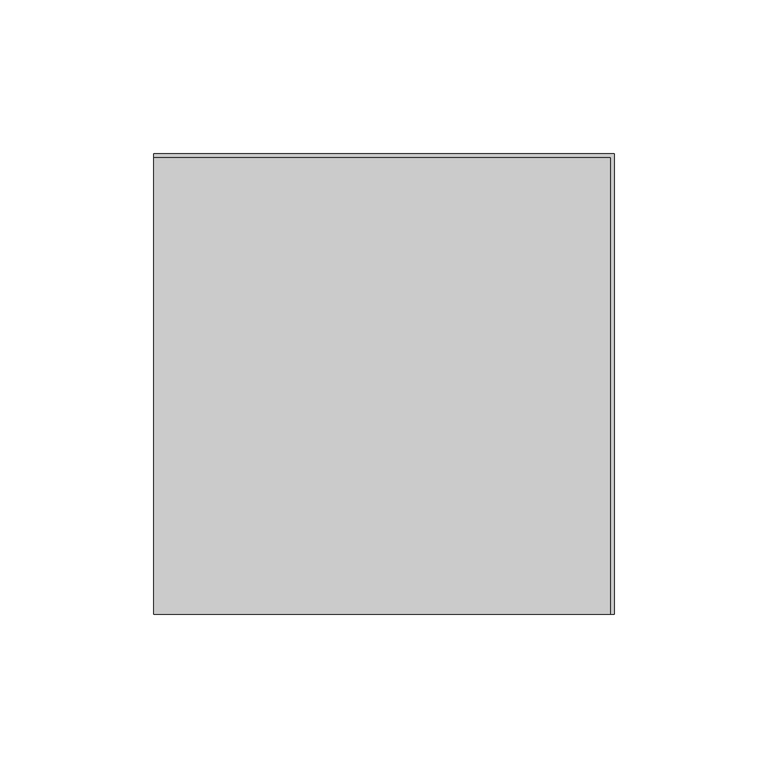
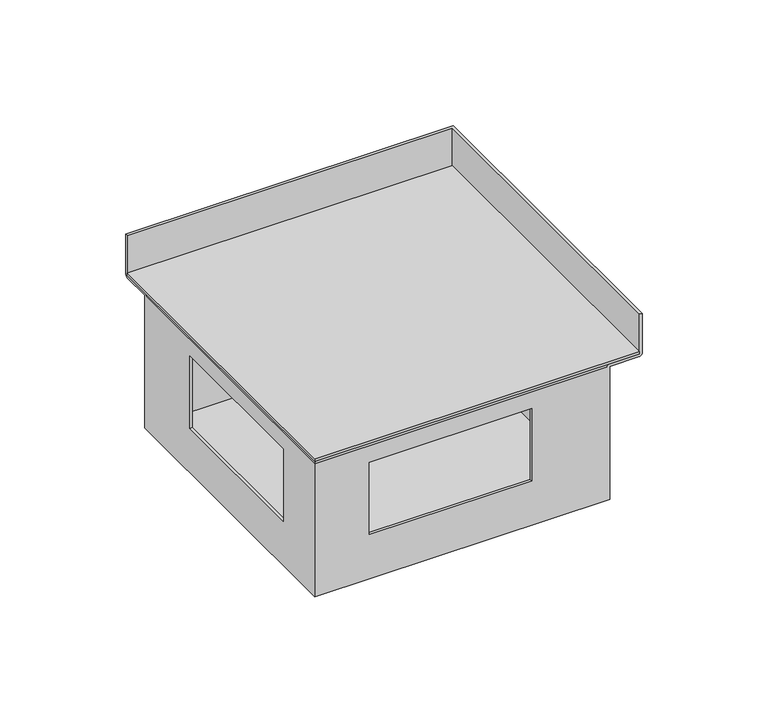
"""IFC4 building model written with IfcOpenShell, lengths in millimetres: proxy geometry, TECHNO_Угловой элемент_KVU : 150_085_90°."""

import ifcopenshell
import ifcopenshell.guid

model = None  # the IFC model being written
_history = None  # IfcOwnerHistory: only IFC2X3 demands one
_inside = {}  # id of a spatial element -> (the spatial element, [elements in it])
_under = {}  # id of a project, library or spatial element -> (it, [spatial elements below it])
_declared = {}  # id of a project -> (the project, [libraries it declares])
_typed = {}  # id of a type object -> (the type object, [elements of that type])
_made_of = {}  # id of a material, layer set ... -> (it, [elements and type objects made of it])


def new_model(schema):
    """Start an empty IFC model of exactly this schema.

    Asked for "IFC4X3", IfcOpenShell would pick the latest addendum, in which some entities
    have other attributes; the version numbers below select the first issue.
    IFC2X3 requires an IfcOwnerHistory on every rooted entity: one is made here for all.
    """
    global model, _history
    if schema == "IFC4X3":
        model = ifcopenshell.file(schema_version=(4, 3, 0, 0))
    else:
        model = ifcopenshell.file(schema=schema)
    _inside.clear()
    _under.clear()
    _declared.clear()
    _typed.clear()
    _made_of.clear()
    _history = None
    if model.schema == "IFC2X3":
        org = make("IfcOrganization", Name="unknown")
        user = make(
            "IfcPersonAndOrganization",
            ThePerson=make("IfcPerson", FamilyName="unknown"),
            TheOrganization=org,
        )
        app = make(
            "IfcApplication",
            ApplicationDeveloper=org,
            Version="unknown",
            ApplicationFullName="unknown",
            ApplicationIdentifier="unknown",
        )
        _history = make(
            "IfcOwnerHistory",
            OwningUser=user,
            OwningApplication=app,
            ChangeAction="ADDED",
            CreationDate=0,
        )
    return model


def make(cls, **values):
    """One entity of the class cls with the attributes given. An attribute that is None is left unset."""
    return model.create_entity(
        cls, **{name: value for name, value in values.items() if value is not None}
    )


def rooted(cls, **values):
    """An entity with a GlobalId (a new one), such as an element, a storey or a relation."""
    return make(cls, GlobalId=ifcopenshell.guid.new(), OwnerHistory=_history, **values)


def si_unit(unit_type, name, prefix=None):
    """IfcSIUnit, for example si_unit("LENGTHUNIT", "METRE", prefix="MILLI")."""
    return make("IfcSIUnit", UnitType=unit_type, Prefix=prefix, Name=name)


def assignment(units):
    """IfcUnitAssignment: the units of a project."""
    return None if units is None else make("IfcUnitAssignment", Units=units)


def point(xyz):
    """IfcCartesianPoint."""
    return None if xyz is None else make("IfcCartesianPoint", Coordinates=xyz)


def direction(xyz):
    """IfcDirection."""
    return None if xyz is None else make("IfcDirection", DirectionRatios=xyz)


def frame(location, z_axis=None, x_axis=None):
    """IfcAxis2Placement3D, a coordinate frame: its origin and axes. An axis left out is left unset."""
    return make(
        "IfcAxis2Placement3D",
        Location=point(location),
        Axis=direction(z_axis),
        RefDirection=direction(x_axis),
    )


def origin():
    """The frame at (0, 0, 0) with its axes left unset."""
    return frame((0.0, 0.0, 0.0))


def place(relative_to, where):
    """IfcLocalPlacement: puts the frame where relative to a parent placement (None: the world)."""
    return make(
        "IfcLocalPlacement", PlacementRelTo=relative_to, RelativePlacement=where
    )


def context(
    kind, dimensions, precision=None, world=None, true_north=None, identifier=None
):
    """IfcGeometricRepresentationContext, for example the 3D "Model" context."""
    return make(
        "IfcGeometricRepresentationContext",
        ContextIdentifier=identifier,
        ContextType=kind,
        CoordinateSpaceDimension=dimensions,
        Precision=precision,
        WorldCoordinateSystem=world,
        TrueNorth=true_north,
    )


def project(units=None, contexts=None):
    """IfcProject with its units and contexts."""
    return rooted(
        "IfcProject",
        Name="project",
        RepresentationContexts=contexts,
        UnitsInContext=assignment(units),
    )


def spatial(cls, under=None, at=None, **own):
    """A site, building, storey or space (cls), placed at a placement, below another one or the project."""
    s = rooted(cls, ObjectPlacement=at, **own)
    if under is not None:
        _under.setdefault(under.id(), (under, []))[1].append(s)
    return s


def polyline(points):
    """IfcPolyline through the points."""
    return make("IfcPolyline", Points=[point(p) for p in points])


def circle_curve(where, radius):
    """IfcCircle in the frame where."""
    return make("IfcCircle", Position=where, Radius=radius)


def ellipse_curve(where, semi_axis1, semi_axis2):
    """IfcEllipse in the frame where."""
    return make(
        "IfcEllipse", Position=where, SemiAxis1=semi_axis1, SemiAxis2=semi_axis2
    )


def outline(outer, holes=None, kind="AREA"):
    """IfcArbitraryClosedProfileDef: a profile drawn as a closed curve; with holes, ...WithVoids."""
    if holes is None:
        return make("IfcArbitraryClosedProfileDef", ProfileType=kind, OuterCurve=outer)
    return make(
        "IfcArbitraryProfileDefWithVoids",
        ProfileType=kind,
        OuterCurve=outer,
        InnerCurves=holes,
    )


def extrude(swept, where, along, depth):
    """IfcExtrudedAreaSolid: the profile swept, set in the frame where, extruded along a direction by depth."""
    return make(
        "IfcExtrudedAreaSolid",
        SweptArea=swept,
        Position=where,
        ExtrudedDirection=direction(along),
        Depth=depth,
    )


def shape(context_of_items, identifier, shape_type, items):
    """IfcShapeRepresentation: the items that make up one representation, for example the "Body"."""
    return make(
        "IfcShapeRepresentation",
        ContextOfItems=context_of_items,
        RepresentationIdentifier=identifier,
        RepresentationType=shape_type,
        Items=items,
    )


def source(mapping_origin, context_of_items, identifier, shape_type, items):
    """IfcRepresentationMap: a shape defined once, which mapped items show again and again."""
    return make(
        "IfcRepresentationMap",
        MappingOrigin=mapping_origin,
        MappedRepresentation=shape(context_of_items, identifier, shape_type, items),
    )


def transform(
    local_origin,
    x_axis=None,
    y_axis=None,
    z_axis=None,
    scale=None,
    scale2=None,
    scale3=None,
    uniform=True,
):
    """IfcCartesianTransformationOperator3D, or its non-uniform kind. x_axis, y_axis, z_axis: its Axis1, 2, 3."""
    if uniform:
        return make(
            "IfcCartesianTransformationOperator3D",
            Axis1=direction(x_axis),
            Axis2=direction(y_axis),
            LocalOrigin=point(local_origin),
            Scale=scale,
            Axis3=direction(z_axis),
        )
    return make(
        "IfcCartesianTransformationOperator3DnonUniform",
        Axis1=direction(x_axis),
        Axis2=direction(y_axis),
        LocalOrigin=point(local_origin),
        Scale=scale,
        Axis3=direction(z_axis),
        Scale2=scale2,
        Scale3=scale3,
    )


def mapped(mapping_source, mapping_target):
    """IfcMappedItem: shows the shape of a source again, moved by a transform."""
    return make(
        "IfcMappedItem", MappingSource=mapping_source, MappingTarget=mapping_target
    )


def made_of(thing, what):
    """Note that an element or type object is made of a material, layer set ...; save() writes the relation."""
    if what is not None:
        _made_of.setdefault(what.id(), (what, []))[1].append(thing)
    return thing


def element(
    cls,
    number,
    at=None,
    inside=None,
    cuts=None,
    type_object=None,
    material=None,
    context=None,
    identifier="Body",
    shape_type=None,
    held_by="IfcProductDefinitionShape",
    body=None,
    shapes=None,
    **own,
):
    """One element of the class cls, such as IfcWall. Its Tag is "e" and its number.

    at: its placement. inside: the storey or other place that contains it. cuts: it is an
    opening in that element (IfcRelVoidsElement). A single representation is given by context,
    identifier, shape_type and body (its items); several are given by shapes. held_by: the class
    of the entity that holds the representations. save() writes the other relations.
    """
    e = rooted(cls, Tag="e%d" % number, ObjectPlacement=at, **own)
    if body is not None:
        shapes = [shape(context, identifier, shape_type, body)]
    if shapes is not None:
        e.Representation = make(held_by, Representations=shapes)
    if inside is not None:
        _inside.setdefault(inside.id(), (inside, []))[1].append(e)
    if cuts is not None:
        rooted(
            "IfcRelVoidsElement", RelatingBuildingElement=cuts, RelatedOpeningElement=e
        )
    if type_object is not None:
        _typed.setdefault(type_object.id(), (type_object, []))[1].append(e)
    return made_of(e, material)


def aggregate(whole, parts):
    """IfcRelAggregates: a whole, such as a stair, and the parts it consists of."""
    return rooted("IfcRelAggregates", RelatingObject=whole, RelatedObjects=parts)


def save(model, path):
    """Write the relations noted so far, then the file.

    IfcRelAggregates (storeys below a building ...), IfcRelContainedInSpatialStructure (elements
    in a storey), IfcRelDefinesByType, IfcRelAssociatesMaterial and IfcRelDeclares: one each for
    every whole, place, type object, material and project.
    """
    for whole, parts in _under.values():
        aggregate(whole, parts)
    for where, things in _inside.values():
        rooted(
            "IfcRelContainedInSpatialStructure",
            RelatedElements=things,
            RelatingStructure=where,
        )
    for kind, things in _typed.values():
        rooted("IfcRelDefinesByType", RelatedObjects=things, RelatingType=kind)
    for what, things in _made_of.values():
        rooted("IfcRelAssociatesMaterial", RelatedObjects=things, RelatingMaterial=what)
    for by, libraries in _declared.values():
        rooted("IfcRelDeclares", RelatingContext=by, RelatedDefinitions=libraries)
    model.write(path)


def plane_surface(at):
    """IfcPlane: the flat surface through the origin of the frame at, square to its z axis."""
    return make("IfcPlane", Position=at)


def cylinder_surface(at, radius):
    """IfcCylindricalSurface: all points at the distance radius from the z axis of the frame at."""
    return make("IfcCylindricalSurface", Position=at, Radius=radius)


def advanced_brep(points, edges, surfaces, faces):
    """IfcAdvancedBrep: a solid bounded by faces that lie on surfaces and meet in shared edges.

    An edge is (start, end): straight between two places in points (the first is 0);
    or (start, end, curve); or (start, end, curve, False) where it runs against its curve.
    A face is (place in surfaces, loops), or (place, loops, False) where it looks against
    its surface's normal. A loop lists edges by number (the first is 1), with a minus sign
    where the edge is run from its end to its start. The first loop is the outer one.
    """
    corners = [point(p) for p in points]
    vertices = [make("IfcVertexPoint", VertexGeometry=c) for c in corners]
    made = []
    for start, end, *more in edges:
        made.append(
            make(
                "IfcEdgeCurve",
                EdgeStart=vertices[start],
                EdgeEnd=vertices[end],
                EdgeGeometry=more[0] if more else make("IfcPolyline", Points=[corners[start], corners[end]]),
                SameSense=more[1] if len(more) > 1 else True,
            )
        )
    hull = []
    for where, loops, *sense in faces:
        bounds = []
        for j, loop in enumerate(loops):
            ring = [make("IfcOrientedEdge", EdgeElement=made[abs(k) - 1], Orientation=k > 0) for k in loop]
            bounds.append(
                make(
                    "IfcFaceOuterBound" if j == 0 else "IfcFaceBound",
                    Bound=make("IfcEdgeLoop", EdgeList=ring),
                    Orientation=True,
                )
            )
        hull.append(make("IfcAdvancedFace", Bounds=bounds, FaceSurface=surfaces[where], SameSense=sense[0] if sense else True))
    return make("IfcAdvancedBrep", Outer=make("IfcClosedShell", CfsFaces=hull))


def mechanical_equipment_80ec096f(model_context):
    return source(origin(), model_context, "Body", "SolidModel", [
        extrude(outline(polyline([(0.0, 73.8), (148.8, 73.8), (148.8, -75.0), (0.0, -75.0), (0.0, 73.8)])), frame((0.0, 0.0, -19.3), z_axis=(0.0, 0.0, 1.0), x_axis=(1.0, 0.0, 0.0)), (0.0, 0.0, 1.0), 1.2),
        advanced_brep(
        [(1.2, 59.0, -83.8), (1.2, -73.8, -83.8), (134.0, -73.8, -83.8), (134.0, 59.0, -83.8), (0.0, 60.2, -85.0), (135.2, 60.2, -85.0), (135.2, -75.0, -85.0), (0.0, -75.0, -85.0), (0.0, 60.2, -20.5), (0.0, -75.0, -20.5), (0.0, 59.0, -20.5), (0.0, 60.2, -19.3), (0.0, 73.8, -19.3), (0.0, 73.8, 0.0), (0.0, 75.0, 0.0), (0.0, 75.0, -19.3), (0.0, 73.8, -20.5), (0.0, -50.0, -28.5), (0.0, -50.0, -63.5), (0.0, 24.4, -63.5), (0.0, 24.4, -28.5), (135.2, -75.0, -20.5), (148.8, -75.0, -20.5), (150.0, -75.0, -19.3), (150.0, -75.0, 0.0), (148.8, -75.0, 0.0), (148.8, -75.0, -19.3), (135.2, -75.0, -19.3), (134.0, -75.0, -20.5), (25.0, -75.0, -63.5), (25.0, -75.0, -28.5), (99.4, -75.0, -28.5), (99.4, -75.0, -63.5), (135.2, 60.2, -20.5), (1.2, 60.2, -19.3), (1.2, -73.8, -19.3), (135.2, -73.8, -19.3), (148.8, 73.8, -19.3), (135.2, -59.0, -19.3), (16.0, -59.0, -19.3), (16.0, 60.2, -19.3), (135.2, 60.2, -19.3), (16.0, -59.0, -20.5), (16.0, 59.0, -20.5), (134.0, -59.0, -20.5), (134.0, -73.8, -20.5), (1.2, -73.8, -20.5), (1.2, 59.0, -20.5), (1.2, -50.0, -63.5), (1.2, -50.0, -28.5), (1.2, 24.4, -28.5), (1.2, 24.4, -63.5), (25.0, -73.8, -28.5), (25.0, -73.8, -63.5), (99.4, -73.8, -63.5), (99.4, -73.8, -28.5), (150.0, 75.0, -19.3), (150.0, 75.0, 0.0), (148.8, 73.8, 0.0), (148.8, 73.8, -20.5), (134.0, 59.0, -20.5)],
        [
            (0, 1),
            (1, 2),
            (2, 3),
            (3, 0),
            (4, 5),
            (5, 6),
            (6, 7),
            (7, 4),
            (8, 4),
            (7, 9),
            (9, 10),
            (10, 11, circle_curve(frame((0.0, 60.2, -20.5), z_axis=(-1.0, 0.0, 0.0), x_axis=(0.0, -1.0, 0.0)), 1.2)),
            (11, 12),
            (12, 13),
            (13, 14),
            (14, 15),
            (15, 16, circle_curve(frame((0.0, 73.8, -19.3), z_axis=(-1.0, 0.0, 0.0), x_axis=(0.0, -1.0, 0.0)), 1.2)),
            (16, 8),
            (17, 18),
            (18, 19),
            (19, 20),
            (20, 17),
            (6, 21),
            (21, 22),
            (22, 23, circle_curve(frame((148.8, -75.0, -19.3), z_axis=(0.0, -1.0, 0.0), x_axis=(-1.0, 0.0, 0.0)), 1.2)),
            (23, 24),
            (24, 25),
            (25, 26),
            (26, 27),
            (27, 28, circle_curve(frame((135.2, -75.0, -20.5), z_axis=(0.0, -1.0, 0.0), x_axis=(-1.0, 0.0, 0.0)), 1.2)),
            (28, 9),
            (29, 30),
            (30, 31),
            (31, 32),
            (32, 29),
            (8, 33),
            (33, 5),
            (33, 21),
            (34, 35),
            (35, 36),
            (36, 27),
            (26, 37),
            (37, 12),
            (11, 34),
            (38, 39),
            (39, 40),
            (40, 41),
            (41, 38),
            (39, 42),
            (42, 43),
            (43, 40, circle_curve(frame((16.0, 60.2, -20.5), z_axis=(-1.0, 0.0, 0.0), x_axis=(0.0, -1.0, 0.0)), 1.2)),
            (38, 44, circle_curve(frame((135.2, -59.0, -20.5), z_axis=(0.0, -1.0, 0.0), x_axis=(-1.0, 0.0, 0.0)), 1.2)),
            (44, 42),
            (44, 45),
            (45, 46),
            (46, 47),
            (47, 43),
            (46, 1),
            (0, 47),
            (48, 49),
            (49, 50),
            (50, 51),
            (51, 48),
            (45, 2),
            (52, 53),
            (53, 54),
            (54, 55),
            (55, 52),
            (34, 10, ellipse_curve(frame((1.2, 60.2, -20.5), z_axis=(0.7071067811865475, -0.7071067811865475, 0.0), x_axis=(0.7071067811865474, 0.7071067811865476, 0.0)), 1.6970563, 1.2)),
            (9, 35, ellipse_curve(frame((1.2, -73.8, -20.5), z_axis=(-0.7071067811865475, 0.7071067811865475, 0.0), x_axis=(0.7071067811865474, 0.7071067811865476, 0.0)), 1.6970563, 1.2)),
            (28, 36, ellipse_curve(frame((135.2, -73.8, -20.5), z_axis=(-0.7071067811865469, 0.707106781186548, 0.0), x_axis=(-0.7071067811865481, -0.7071067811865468, 0.0)), 1.6970563, 1.2)),
            (23, 56),
            (56, 57),
            (57, 24),
            (57, 14),
            (13, 58),
            (58, 25),
            (58, 37),
            (16, 59),
            (59, 22),
            (59, 56, ellipse_curve(frame((148.8, 73.8, -19.3), z_axis=(0.7071067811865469, -0.707106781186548, 0.0), x_axis=(-0.7071067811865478, -0.707106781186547, 0.0)), 1.6970563, 1.2)),
            (56, 15),
            (41, 60, ellipse_curve(frame((135.2, 60.2, -20.5), z_axis=(0.7071067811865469, -0.707106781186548, 0.0), x_axis=(-0.7071067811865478, -0.707106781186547, 0.0)), 1.6970563, 1.2)),
            (60, 44),
            (60, 3),
            (43, 60),
            (48, 18),
            (17, 49),
            (51, 19),
            (50, 20),
            (52, 30),
            (29, 53),
            (55, 31),
            (54, 32),
        ],
        [
            plane_surface(frame((0.0, 59.0, -83.8), z_axis=(0.0, 0.0, 1.0), x_axis=(0.0, -1.0, 0.0))),
            plane_surface(frame((0.0, 59.0, -85.0), z_axis=(0.0, 0.0, -1.0), x_axis=(0.0, 1.0, 0.0))),
            plane_surface(frame((0.0, 59.0, -83.8), z_axis=(-1.0, 0.0, 0.0), x_axis=(0.0, 0.0, -1.0))),
            plane_surface(frame((0.0, -75.0, -83.8), z_axis=(0.0, -1.0, 0.0), x_axis=(0.0, 0.0, -1.0))),
            plane_surface(frame((0.0, 60.2, -85.0), z_axis=(0.0, 1.0, 0.0), x_axis=(0.0, 0.0, -1.0))),
            plane_surface(frame((135.2, -75.0, -85.0), z_axis=(1.0, 0.0, 0.0), x_axis=(0.0, 0.0, -1.0))),
            plane_surface(frame((1.2, 60.2, -19.3), z_axis=(0.0, 0.0, 1.0), x_axis=(0.0, -1.0, 0.0))),
            plane_surface(frame((16.0, 60.2, -19.3), z_axis=(1.0, 0.0, 0.0), x_axis=(0.0, -1.0, 0.0))),
            plane_surface(frame((16.0, -59.0, -19.3), z_axis=(0.0, 1.0, 0.0), x_axis=(1.0, 0.0, 0.0))),
            plane_surface(frame((16.0, 60.2, -20.5), z_axis=(0.0, 0.0, -1.0), x_axis=(0.0, -1.0, 0.0))),
            plane_surface(frame((1.2, 60.2, -20.5), z_axis=(1.0, 0.0, 0.0), x_axis=(0.0, -1.0, 0.0))),
            plane_surface(frame((1.2, -73.8, -20.5), z_axis=(0.0, 1.0, 0.0), x_axis=(1.0, 0.0, 0.0))),
            cylinder_surface(frame((1.2, 60.2, -20.5), z_axis=(0.0, 1.0, 0.0), x_axis=(-1.0, 0.0, 0.0)), 1.2),
            cylinder_surface(frame((0.0, -73.8, -20.5), z_axis=(-1.0, 0.0, 0.0), x_axis=(0.0, -1.0, 0.0)), 1.2),
            plane_surface(frame((150.0, -75.0, -19.3), z_axis=(1.0, 0.0, 0.0), x_axis=(0.0, 1.0, 0.0))),
            plane_surface(frame((150.0, -75.0, 0.0), z_axis=(0.0, 0.0, 1.0), x_axis=(0.0, 1.0, 0.0))),
            plane_surface(frame((148.8, -75.0, 0.0), z_axis=(-1.0, 0.0, 0.0), x_axis=(0.0, 1.0, 0.0))),
            plane_surface(frame((135.2, -75.0, -20.5), z_axis=(0.0, 0.0, -1.0), x_axis=(0.0, 1.0, 0.0))),
            cylinder_surface(frame((148.8, -75.0, -19.3), z_axis=(0.0, -1.0, 0.0), x_axis=(-1.0, 0.0, 0.0)), 1.2),
            plane_surface(frame((150.0, 75.0, -19.3), z_axis=(0.0, 1.0, 0.0), x_axis=(-1.0, 0.0, 0.0))),
            plane_surface(frame((148.8, 73.8, 0.0), z_axis=(0.0, -1.0, 0.0), x_axis=(-1.0, 0.0, 0.0))),
            cylinder_surface(frame((75.0, 73.8, -19.3), z_axis=(1.0, 0.0, 0.0), x_axis=(0.0, -1.0, 0.0)), 1.2),
            cylinder_surface(frame((135.2, -75.0, -20.5), z_axis=(0.0, -1.0, 0.0), x_axis=(-1.0, 0.0, 0.0)), 1.2),
            plane_surface(frame((134.0, -75.0, -20.5), z_axis=(-1.0, 0.0, 0.0), x_axis=(0.0, 1.0, 0.0))),
            cylinder_surface(frame((75.0, 60.2, -20.5), z_axis=(1.0, 0.0, 0.0), x_axis=(0.0, -1.0, 0.0)), 1.2),
            plane_surface(frame((134.0, 59.0, -20.5), z_axis=(0.0, -1.0, 0.0), x_axis=(-1.0, 0.0, 0.0))),
            plane_surface(frame((1.2, -50.0, -28.5), z_axis=(0.0, 1.0, 0.0), x_axis=(-1.0, 0.0, 0.0))),
            plane_surface(frame((1.2, -50.0, -63.5), z_axis=(0.0, 0.0, 1.0), x_axis=(-1.0, 0.0, 0.0))),
            plane_surface(frame((1.2, 24.4, -63.5), z_axis=(0.0, -1.0, 0.0), x_axis=(-1.0, 0.0, 0.0))),
            plane_surface(frame((1.2, 24.4, -28.5), z_axis=(0.0, 0.0, -1.0), x_axis=(-1.0, 0.0, 0.0))),
            plane_surface(frame((25.0, -73.8, -63.5), z_axis=(1.0, 0.0, 0.0), x_axis=(0.0, -1.0, 0.0))),
            plane_surface(frame((25.0, -73.8, -28.5), z_axis=(0.0, 0.0, -1.0), x_axis=(0.0, -1.0, 0.0))),
            plane_surface(frame((99.4, -73.8, -28.5), z_axis=(-1.0, 0.0, 0.0), x_axis=(0.0, -1.0, 0.0))),
            plane_surface(frame((99.4, -73.8, -63.5), z_axis=(0.0, 0.0, 1.0), x_axis=(0.0, -1.0, 0.0))),
        ],
        [
            (0, [[1, 2, 3, 4]]),
            (1, [[5, 6, 7, 8]]),
            (2, [[9, -8, 10, 11, 12, 13, 14, 15, 16, 17, 18], [19, 20, 21, 22]]),
            (3, [[23, 24, 25, 26, 27, 28, 29, 30, 31, -10, -7], [32, 33, 34, 35]]),
            (4, [[-9, 36, 37, -5]]),
            (5, [[-23, -6, -37, 38]]),
            (6, [[39, 40, 41, -29, 42, 43, -13, 44], [45, 46, 47, 48]]),
            (7, [[-46, 49, 50, 51]]),
            (8, [[-45, 52, 53, -49]]),
            (9, [[-50, -53, 54, 55, 56, 57]]),
            (10, [[58, -1, 59, -56], [60, 61, 62, 63]]),
            (11, [[-58, -55, 64, -2], [65, 66, 67, 68]]),
            (12, [[-39, 69, -11, 70]]),
            (13, [[-40, -70, -31, 71]]),
            (14, [[-26, 72, 73, 74]]),
            (15, [[-27, -74, 75, -15, 76, 77]]),
            (16, [[-28, -77, 78, -42]]),
            (17, [[-24, -38, -36, -18, 79, 80]]),
            (18, [[-25, -80, 81, -72]]),
            (19, [[-73, 82, -16, -75]]),
            (20, [[-76, -14, -43, -78]]),
            (21, [[-79, -17, -82, -81]]),
            (22, [[-30, -41, -71]]),
            (22, [[83, 84, -52, -48]]),
            (23, [[85, -3, -64, -54, -84]]),
            (24, [[-12, -69, -44]]),
            (24, [[-83, -47, -51, 86]]),
            (25, [[-85, -86, -57, -59, -4]]),
            (26, [[87, -19, 88, -60]]),
            (27, [[-87, -63, 89, -20]]),
            (28, [[-89, -62, 90, -21]]),
            (29, [[-88, -22, -90, -61]]),
            (30, [[91, -32, 92, -65]]),
            (31, [[-91, -68, 93, -33]]),
            (32, [[-93, -67, 94, -34]]),
            (33, [[-92, -35, -94, -66]]),
        ],
    ),
    ])


if __name__ == "__main__":
    model = new_model("IFC4")
    model_context = context("Model", 3, world=origin())
    ifc_project = project(units=[si_unit("LENGTHUNIT", "METRE", prefix="MILLI")], contexts=[model_context])
    site = spatial("IfcSite", under=ifc_project)
    building = spatial("IfcBuilding", under=site)
    placement = place(None, origin())
    mechanical_equipment_shape = mechanical_equipment_80ec096f(model_context)
    element("IfcBuildingElementProxy", 1, Name="TECHNO_Угловой элемент_KVU : 150_085_90°", ObjectType="TECHNO_Угловой элемент_KVU : 150_085_90°", at=placement, inside=building, context=model_context, shape_type="MappedRepresentation", body=[
        mapped(mechanical_equipment_shape, transform((0.0, 0.0, 0.0), x_axis=(1.0, 0.0, 0.0), y_axis=(0.0, 1.0, 0.0), z_axis=(0.0, 0.0, 1.0))),
    ])
    save(model, "model.ifc")
